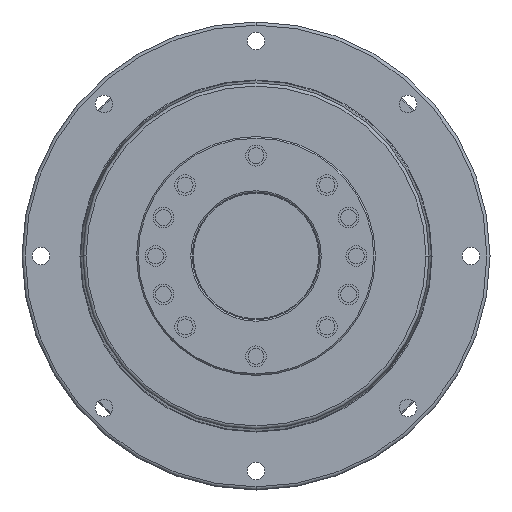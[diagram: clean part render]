
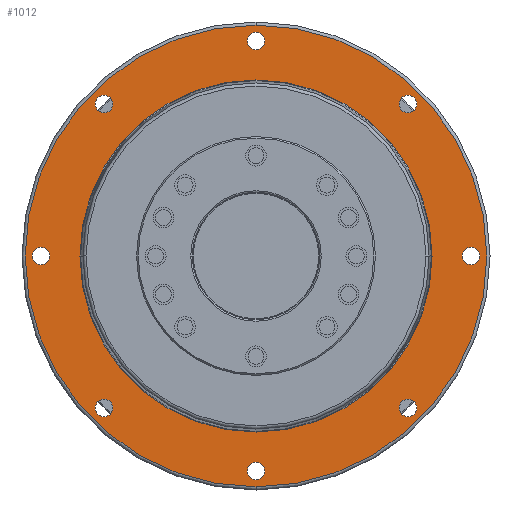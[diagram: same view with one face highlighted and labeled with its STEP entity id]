
A CAD part, left-side view. The second image highlights one B-rep face of the part: STEP entity #1012.
In plain terms, the highlighted planar face has unit normal (-1, 0, 0).
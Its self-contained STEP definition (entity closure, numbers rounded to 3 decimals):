
#226=CARTESIAN_POINT('',(22.,67.5,0.));
#227=DIRECTION('',(-1.,0.,0.));
#228=DIRECTION('',(0.,0.,1.));
#229=AXIS2_PLACEMENT_3D('',#226,#227,#228);
#231=CARTESIAN_POINT('',(22.,67.5,0.));
#232=DIRECTION('',(-1.,0.,0.));
#233=DIRECTION('',(0.,0.,-1.));
#234=AXIS2_PLACEMENT_3D('',#231,#232,#233);
#236=CARTESIAN_POINT('',(22.,47.73,47.73));
#237=DIRECTION('',(-1.,0.,0.));
#238=DIRECTION('',(0.,-0.707,0.707));
#239=AXIS2_PLACEMENT_3D('',#236,#237,#238);
#241=CARTESIAN_POINT('',(22.,47.73,47.73));
#242=DIRECTION('',(-1.,0.,0.));
#243=DIRECTION('',(0.,0.707,-0.707));
#244=AXIS2_PLACEMENT_3D('',#241,#242,#243);
#246=CARTESIAN_POINT('',(22.,0.,67.5));
#247=DIRECTION('',(-1.,0.,0.));
#248=DIRECTION('',(0.,-1.,0.));
#249=AXIS2_PLACEMENT_3D('',#246,#247,#248);
#251=CARTESIAN_POINT('',(22.,0.,67.5));
#252=DIRECTION('',(-1.,0.,0.));
#253=DIRECTION('',(0.,1.,0.));
#254=AXIS2_PLACEMENT_3D('',#251,#252,#253);
#256=CARTESIAN_POINT('',(22.,-47.73,47.73));
#257=DIRECTION('',(-1.,0.,0.));
#258=DIRECTION('',(0.,-0.707,-0.707));
#259=AXIS2_PLACEMENT_3D('',#256,#257,#258);
#261=CARTESIAN_POINT('',(22.,-47.73,47.73));
#262=DIRECTION('',(-1.,0.,0.));
#263=DIRECTION('',(0.,0.707,0.707));
#264=AXIS2_PLACEMENT_3D('',#261,#262,#263);
#266=CARTESIAN_POINT('',(22.,-67.5,0.));
#267=DIRECTION('',(-1.,0.,0.));
#268=DIRECTION('',(0.,0.,-1.));
#269=AXIS2_PLACEMENT_3D('',#266,#267,#268);
#271=CARTESIAN_POINT('',(22.,-67.5,0.));
#272=DIRECTION('',(-1.,0.,0.));
#273=DIRECTION('',(0.,0.,1.));
#274=AXIS2_PLACEMENT_3D('',#271,#272,#273);
#276=CARTESIAN_POINT('',(22.,-47.73,-47.73));
#277=DIRECTION('',(-1.,0.,0.));
#278=DIRECTION('',(0.,0.707,-0.707));
#279=AXIS2_PLACEMENT_3D('',#276,#277,#278);
#281=CARTESIAN_POINT('',(22.,-47.73,-47.73));
#282=DIRECTION('',(-1.,0.,0.));
#283=DIRECTION('',(0.,-0.707,0.707));
#284=AXIS2_PLACEMENT_3D('',#281,#282,#283);
#286=CARTESIAN_POINT('',(22.,0.,-67.5));
#287=DIRECTION('',(-1.,0.,0.));
#288=DIRECTION('',(0.,1.,0.));
#289=AXIS2_PLACEMENT_3D('',#286,#287,#288);
#291=CARTESIAN_POINT('',(22.,0.,-67.5));
#292=DIRECTION('',(-1.,0.,0.));
#293=DIRECTION('',(0.,-1.,0.));
#294=AXIS2_PLACEMENT_3D('',#291,#292,#293);
#296=CARTESIAN_POINT('',(22.,47.73,-47.73));
#297=DIRECTION('',(-1.,0.,0.));
#298=DIRECTION('',(0.,0.707,0.707));
#299=AXIS2_PLACEMENT_3D('',#296,#297,#298);
#301=CARTESIAN_POINT('',(22.,47.73,-47.73));
#302=DIRECTION('',(-1.,0.,0.));
#303=DIRECTION('',(0.,-0.707,-0.707));
#304=AXIS2_PLACEMENT_3D('',#301,#302,#303);
#306=CARTESIAN_POINT('',(22.,0.,0.));
#307=DIRECTION('',(1.,0.,0.));
#308=DIRECTION('',(0.,-1.,0.));
#309=AXIS2_PLACEMENT_3D('',#306,#307,#308);
#311=CARTESIAN_POINT('',(22.,0.,0.));
#312=DIRECTION('',(1.,0.,0.));
#313=DIRECTION('',(0.,1.,0.));
#314=AXIS2_PLACEMENT_3D('',#311,#312,#313);
#316=CARTESIAN_POINT('',(22.,0.,0.));
#317=DIRECTION('',(-1.,0.,0.));
#318=DIRECTION('',(0.,0.,-1.));
#319=AXIS2_PLACEMENT_3D('',#316,#317,#318);
#321=CARTESIAN_POINT('',(22.,0.,0.));
#322=DIRECTION('',(-1.,0.,0.));
#323=DIRECTION('',(0.,0.,1.));
#324=AXIS2_PLACEMENT_3D('',#321,#322,#323);
#557=CARTESIAN_POINT('',(22.,67.5,2.75));
#558=CARTESIAN_POINT('',(22.,67.5,-2.75));
#559=VERTEX_POINT('',#557);
#560=VERTEX_POINT('',#558);
#565=CARTESIAN_POINT('',(22.,45.785,49.674));
#566=CARTESIAN_POINT('',(22.,49.674,45.785));
#567=VERTEX_POINT('',#565);
#568=VERTEX_POINT('',#566);
#573=CARTESIAN_POINT('',(22.,-2.75,67.5));
#574=CARTESIAN_POINT('',(22.,2.75,67.5));
#575=VERTEX_POINT('',#573);
#576=VERTEX_POINT('',#574);
#581=CARTESIAN_POINT('',(22.,-49.674,45.785));
#582=CARTESIAN_POINT('',(22.,-45.785,49.674));
#583=VERTEX_POINT('',#581);
#584=VERTEX_POINT('',#582);
#589=CARTESIAN_POINT('',(22.,-67.5,-2.75));
#590=CARTESIAN_POINT('',(22.,-67.5,2.75));
#591=VERTEX_POINT('',#589);
#592=VERTEX_POINT('',#590);
#597=CARTESIAN_POINT('',(22.,-45.785,-49.674));
#598=CARTESIAN_POINT('',(22.,-49.674,-45.785));
#599=VERTEX_POINT('',#597);
#600=VERTEX_POINT('',#598);
#605=CARTESIAN_POINT('',(22.,2.75,-67.5));
#606=CARTESIAN_POINT('',(22.,-2.75,-67.5));
#607=VERTEX_POINT('',#605);
#608=VERTEX_POINT('',#606);
#613=CARTESIAN_POINT('',(22.,49.674,-45.785));
#614=CARTESIAN_POINT('',(22.,45.785,-49.674));
#615=VERTEX_POINT('',#613);
#616=VERTEX_POINT('',#614);
#665=CARTESIAN_POINT('',(22.,-55.3,0.));
#666=CARTESIAN_POINT('',(22.,55.3,0.));
#667=VERTEX_POINT('',#665);
#668=VERTEX_POINT('',#666);
#677=CARTESIAN_POINT('',(22.,0.,-72.5));
#678=CARTESIAN_POINT('',(22.,0.,72.5));
#679=VERTEX_POINT('',#677);
#680=VERTEX_POINT('',#678);
#948=CARTESIAN_POINT('',(22.,0.,0.));
#949=DIRECTION('',(-1.,0.,0.));
#950=DIRECTION('',(0.,0.,1.));
#951=AXIS2_PLACEMENT_3D('',#948,#949,#950);
#952=PLANE('',#951);
#954=ORIENTED_EDGE('',*,*,#953,.F.);
#956=ORIENTED_EDGE('',*,*,#955,.F.);
#957=EDGE_LOOP('',(#954,#956));
#958=FACE_OUTER_BOUND('',#957,.F.);
#959=ORIENTED_EDGE('',*,*,#938,.T.);
#961=ORIENTED_EDGE('',*,*,#960,.T.);
#962=EDGE_LOOP('',(#959,#961));
#963=FACE_BOUND('',#962,.F.);
#965=ORIENTED_EDGE('',*,*,#964,.T.);
#967=ORIENTED_EDGE('',*,*,#966,.T.);
#968=EDGE_LOOP('',(#965,#967));
#969=FACE_BOUND('',#968,.F.);
#971=ORIENTED_EDGE('',*,*,#970,.T.);
#973=ORIENTED_EDGE('',*,*,#972,.T.);
#974=EDGE_LOOP('',(#971,#973));
#975=FACE_BOUND('',#974,.F.);
#977=ORIENTED_EDGE('',*,*,#976,.T.);
#979=ORIENTED_EDGE('',*,*,#978,.T.);
#980=EDGE_LOOP('',(#977,#979));
#981=FACE_BOUND('',#980,.F.);
#983=ORIENTED_EDGE('',*,*,#982,.T.);
#985=ORIENTED_EDGE('',*,*,#984,.T.);
#986=EDGE_LOOP('',(#983,#985));
#987=FACE_BOUND('',#986,.F.);
#989=ORIENTED_EDGE('',*,*,#988,.T.);
#991=ORIENTED_EDGE('',*,*,#990,.T.);
#992=EDGE_LOOP('',(#989,#991));
#993=FACE_BOUND('',#992,.F.);
#995=ORIENTED_EDGE('',*,*,#994,.T.);
#997=ORIENTED_EDGE('',*,*,#996,.T.);
#998=EDGE_LOOP('',(#995,#997));
#999=FACE_BOUND('',#998,.F.);
#1001=ORIENTED_EDGE('',*,*,#1000,.T.);
#1003=ORIENTED_EDGE('',*,*,#1002,.T.);
#1004=EDGE_LOOP('',(#1001,#1003));
#1005=FACE_BOUND('',#1004,.F.);
#1007=ORIENTED_EDGE('',*,*,#1006,.F.);
#1009=ORIENTED_EDGE('',*,*,#1008,.F.);
#1010=EDGE_LOOP('',(#1007,#1009));
#1011=FACE_BOUND('',#1010,.F.);
#1012=ADVANCED_FACE('',(#958,#963,#969,#975,#981,#987,#993,#999,#1005,#1011),
#952,.T.);
#230=CIRCLE('',#229,2.75);
#235=CIRCLE('',#234,2.75);
#240=CIRCLE('',#239,2.75);
#245=CIRCLE('',#244,2.75);
#250=CIRCLE('',#249,2.75);
#255=CIRCLE('',#254,2.75);
#260=CIRCLE('',#259,2.75);
#265=CIRCLE('',#264,2.75);
#270=CIRCLE('',#269,2.75);
#275=CIRCLE('',#274,2.75);
#280=CIRCLE('',#279,2.75);
#285=CIRCLE('',#284,2.75);
#290=CIRCLE('',#289,2.75);
#295=CIRCLE('',#294,2.75);
#300=CIRCLE('',#299,2.75);
#305=CIRCLE('',#304,2.75);
#310=CIRCLE('',#309,55.3);
#315=CIRCLE('',#314,55.3);
#320=CIRCLE('',#319,72.5);
#325=CIRCLE('',#324,72.5);
#938=EDGE_CURVE('',#559,#560,#230,.T.);
#953=EDGE_CURVE('',#679,#680,#320,.T.);
#955=EDGE_CURVE('',#680,#679,#325,.T.);
#960=EDGE_CURVE('',#560,#559,#235,.T.);
#964=EDGE_CURVE('',#567,#568,#240,.T.);
#966=EDGE_CURVE('',#568,#567,#245,.T.);
#970=EDGE_CURVE('',#575,#576,#250,.T.);
#972=EDGE_CURVE('',#576,#575,#255,.T.);
#976=EDGE_CURVE('',#583,#584,#260,.T.);
#978=EDGE_CURVE('',#584,#583,#265,.T.);
#982=EDGE_CURVE('',#591,#592,#270,.T.);
#984=EDGE_CURVE('',#592,#591,#275,.T.);
#988=EDGE_CURVE('',#599,#600,#280,.T.);
#990=EDGE_CURVE('',#600,#599,#285,.T.);
#994=EDGE_CURVE('',#607,#608,#290,.T.);
#996=EDGE_CURVE('',#608,#607,#295,.T.);
#1000=EDGE_CURVE('',#615,#616,#300,.T.);
#1002=EDGE_CURVE('',#616,#615,#305,.T.);
#1006=EDGE_CURVE('',#667,#668,#310,.T.);
#1008=EDGE_CURVE('',#668,#667,#315,.T.);
